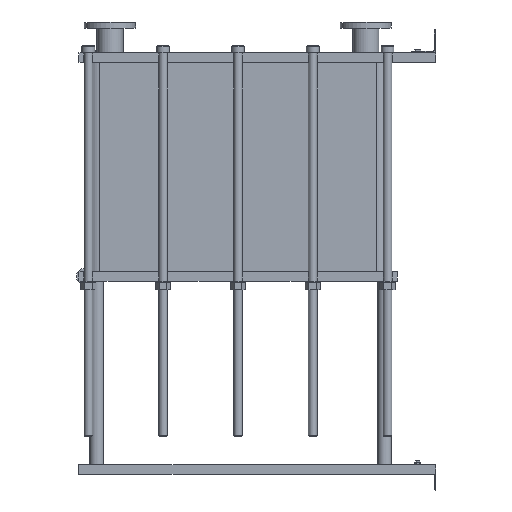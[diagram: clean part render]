
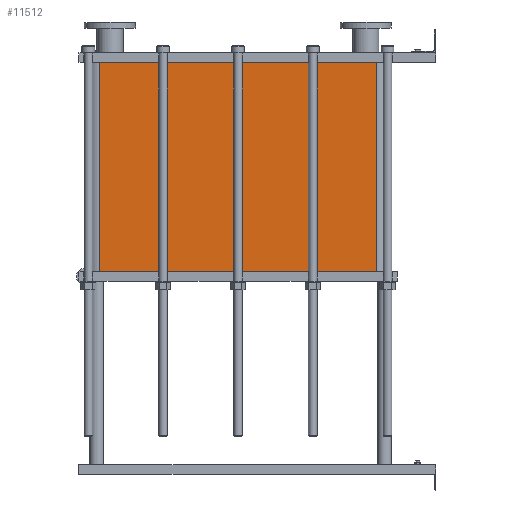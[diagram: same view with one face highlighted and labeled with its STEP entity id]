
A CAD part, left-side view. The second image highlights one B-rep face of the part: STEP entity #11512.
In plain terms, the highlighted planar face has unit normal (-1, 0, 0).
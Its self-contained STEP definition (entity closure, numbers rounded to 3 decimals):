
#1129=LINE('',#23232,#2102);
#1130=LINE('',#23236,#2103);
#1131=LINE('',#23238,#2104);
#1132=LINE('',#23239,#2105);
#2102=VECTOR('',#15887,10.);
#2103=VECTOR('',#15892,10.);
#2104=VECTOR('',#15893,10.);
#2105=VECTOR('',#15894,10.);
#3267=FACE_OUTER_BOUND('',#4093,.T.);
#4093=EDGE_LOOP('',(#10103,#10104,#10105,#10106));
#5642=VERTEX_POINT('',#23229);
#5643=VERTEX_POINT('',#23231);
#5644=VERTEX_POINT('',#23235);
#5645=VERTEX_POINT('',#23237);
#7159=EDGE_CURVE('',#5643,#5642,#1129,.T.);
#7161=EDGE_CURVE('',#5642,#5644,#1130,.T.);
#7162=EDGE_CURVE('',#5645,#5644,#1131,.T.);
#7163=EDGE_CURVE('',#5645,#5643,#1132,.T.);
#10103=ORIENTED_EDGE('',*,*,#7161,.T.);
#10104=ORIENTED_EDGE('',*,*,#7162,.F.);
#10105=ORIENTED_EDGE('',*,*,#7163,.T.);
#10106=ORIENTED_EDGE('',*,*,#7159,.T.);
#10857=PLANE('',#12751);
#11512=ADVANCED_FACE('',(#3267),#10857,.T.);
#12751=AXIS2_PLACEMENT_3D('',#23234,#15890,#15891);
#15887=DIRECTION('',(0.,0.,-1.));
#15890=DIRECTION('center_axis',(-1.,0.,0.));
#15891=DIRECTION('ref_axis',(0.,1.,0.));
#15892=DIRECTION('',(0.,-1.,0.));
#15893=DIRECTION('',(0.,0.,-1.));
#15894=DIRECTION('',(0.,1.,0.));
#23229=CARTESIAN_POINT('',(-200.,1414.,-879.75));
#23231=CARTESIAN_POINT('',(-200.,1414.,0.));
#23232=CARTESIAN_POINT('',(-200.,1414.,0.));
#23234=CARTESIAN_POINT('Origin',(-200.,248.,0.));
#23235=CARTESIAN_POINT('',(-200.,248.,-879.75));
#23236=CARTESIAN_POINT('',(-200.,539.5,-879.75));
#23237=CARTESIAN_POINT('',(-200.,248.,0.));
#23238=CARTESIAN_POINT('',(-200.,248.,0.));
#23239=CARTESIAN_POINT('',(-200.,248.,0.));
